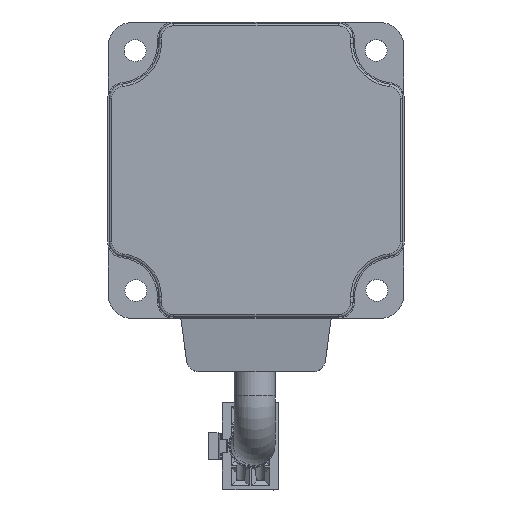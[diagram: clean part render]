
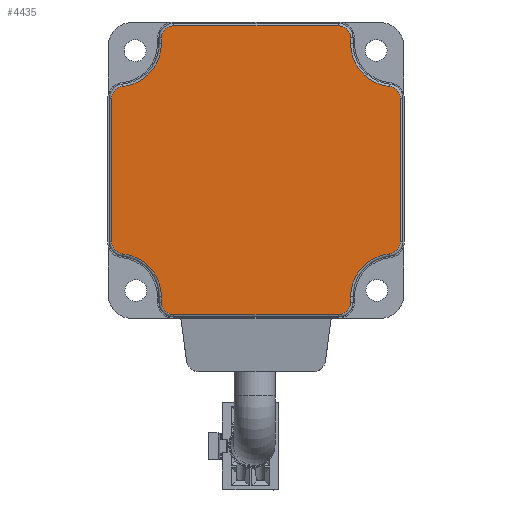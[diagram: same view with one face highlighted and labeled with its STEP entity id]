
A CAD part, top view. The second image highlights one B-rep face of the part: STEP entity #4435.
In plain terms, the highlighted planar face has unit normal (0, 0, 1).
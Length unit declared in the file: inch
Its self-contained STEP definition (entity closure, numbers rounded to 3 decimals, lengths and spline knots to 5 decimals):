
#3576=CARTESIAN_POINT('',(0.66929,1.17126,1.33858));
#3577=VERTEX_POINT('',#3576);
#3585=CARTESIAN_POINT('',(0.76772,1.07283,1.33858));
#3586=VERTEX_POINT('',#3585);
#3587=CARTESIAN_POINT('',(0.66929,1.07283,1.33858));
#3588=DIRECTION('',(0.0,0.0,-1.0));
#3589=DIRECTION('',(0.707,0.707,0.0));
#3590=AXIS2_PLACEMENT_3D('',#3587,#3588,#3589);
#3591=CIRCLE('',#3590,0.09843);
#3592=EDGE_CURVE('',#3577,#3586,#3591,.T.);
#3618=CARTESIAN_POINT('',(0.76772,1.02773,1.33858));
#3619=VERTEX_POINT('',#3618);
#3636=CARTESIAN_POINT('',(0.76772,1.07283,1.33858));
#3637=DIRECTION('',(0.,-1.0,0.0));
#3638=VECTOR('',#3637,0.0451);
#3639=LINE('',#3636,#3638);
#3640=EDGE_CURVE('',#3586,#3619,#3639,.T.);
#3650=CARTESIAN_POINT('',(1.08276,0.67912,1.33858));
#3651=VERTEX_POINT('',#3650);
#3669=CARTESIAN_POINT('',(1.11811,1.02773,1.33858));
#3670=DIRECTION('',(0.0,0.0,1.0));
#3671=DIRECTION('',(-0.742,-0.67,0.0));
#3672=AXIS2_PLACEMENT_3D('',#3669,#3670,#3671);
#3673=CIRCLE('',#3672,0.35039);
#3674=EDGE_CURVE('',#3619,#3651,#3673,.T.);
#3684=CARTESIAN_POINT('',(1.17126,0.5812,1.33858));
#3685=VERTEX_POINT('',#3684);
#3703=CARTESIAN_POINT('',(1.07283,0.5812,1.33858));
#3704=DIRECTION('',(0.0,0.0,-1.0));
#3705=DIRECTION('',(0.742,0.67,0.0));
#3706=AXIS2_PLACEMENT_3D('',#3703,#3704,#3705);
#3707=CIRCLE('',#3706,0.09843);
#3708=EDGE_CURVE('',#3651,#3685,#3707,.T.);
#3718=CARTESIAN_POINT('',(1.17126,-0.5812,1.33858));
#3719=VERTEX_POINT('',#3718);
#3736=CARTESIAN_POINT('',(1.17126,0.5812,1.33858));
#3737=DIRECTION('',(0.0,-1.0,0.0));
#3738=VECTOR('',#3737,1.1624);
#3739=LINE('',#3736,#3738);
#3740=EDGE_CURVE('',#3685,#3719,#3739,.T.);
#3750=CARTESIAN_POINT('',(1.08276,-0.67912,1.33858));
#3751=VERTEX_POINT('',#3750);
#3769=CARTESIAN_POINT('',(1.07283,-0.5812,1.33858));
#3770=DIRECTION('',(0.0,0.0,-1.));
#3771=DIRECTION('',(0.742,-0.67,0.0));
#3772=AXIS2_PLACEMENT_3D('',#3769,#3770,#3771);
#3773=CIRCLE('',#3772,0.09843);
#3774=EDGE_CURVE('',#3719,#3751,#3773,.T.);
#3784=CARTESIAN_POINT('',(0.76772,-1.02773,1.33858));
#3785=VERTEX_POINT('',#3784);
#3803=CARTESIAN_POINT('',(1.11811,-1.02773,1.33858));
#3804=DIRECTION('',(0.0,0.0,1.));
#3805=DIRECTION('',(-0.742,0.67,0.0));
#3806=AXIS2_PLACEMENT_3D('',#3803,#3804,#3805);
#3807=CIRCLE('',#3806,0.35039);
#3808=EDGE_CURVE('',#3751,#3785,#3807,.T.);
#3818=CARTESIAN_POINT('',(0.76772,-1.07283,1.33858));
#3819=VERTEX_POINT('',#3818);
#3836=CARTESIAN_POINT('',(0.76772,-1.02773,1.33858));
#3837=DIRECTION('',(0.,-1.0,0.0));
#3838=VECTOR('',#3837,0.0451);
#3839=LINE('',#3836,#3838);
#3840=EDGE_CURVE('',#3785,#3819,#3839,.T.);
#3850=CARTESIAN_POINT('',(0.66929,-1.17126,1.33858));
#3851=VERTEX_POINT('',#3850);
#3869=CARTESIAN_POINT('',(0.66929,-1.07283,1.33858));
#3870=DIRECTION('',(0.0,0.0,-1.));
#3871=DIRECTION('',(0.707,-0.707,0.0));
#3872=AXIS2_PLACEMENT_3D('',#3869,#3870,#3871);
#3873=CIRCLE('',#3872,0.09843);
#3874=EDGE_CURVE('',#3819,#3851,#3873,.T.);
#3884=CARTESIAN_POINT('',(-0.66929,-1.17126,1.33858));
#3885=VERTEX_POINT('',#3884);
#3902=CARTESIAN_POINT('',(0.66929,-1.17126,1.33858));
#3903=DIRECTION('',(-1.0,0.,0.0));
#3904=VECTOR('',#3903,1.33858);
#3905=LINE('',#3902,#3904);
#3906=EDGE_CURVE('',#3851,#3885,#3905,.T.);
#3916=CARTESIAN_POINT('',(-0.76772,-1.07283,1.33858));
#3917=VERTEX_POINT('',#3916);
#3935=CARTESIAN_POINT('',(-0.66929,-1.07283,1.33858));
#3936=DIRECTION('',(0.0,0.0,-1.));
#3937=DIRECTION('',(-0.707,-0.707,0.0));
#3938=AXIS2_PLACEMENT_3D('',#3935,#3936,#3937);
#3939=CIRCLE('',#3938,0.09843);
#3940=EDGE_CURVE('',#3885,#3917,#3939,.T.);
#3950=CARTESIAN_POINT('',(-0.76772,-1.02773,1.33858));
#3951=VERTEX_POINT('',#3950);
#3968=CARTESIAN_POINT('',(-0.76772,-1.07283,1.33858));
#3969=DIRECTION('',(0.,1.0,0.0));
#3970=VECTOR('',#3969,0.0451);
#3971=LINE('',#3968,#3970);
#3972=EDGE_CURVE('',#3917,#3951,#3971,.T.);
#3982=CARTESIAN_POINT('',(-1.08276,-0.67912,1.33858));
#3983=VERTEX_POINT('',#3982);
#4001=CARTESIAN_POINT('',(-1.11811,-1.02773,1.33858));
#4002=DIRECTION('',(0.0,0.0,1.));
#4003=DIRECTION('',(0.742,0.67,0.0));
#4004=AXIS2_PLACEMENT_3D('',#4001,#4002,#4003);
#4005=CIRCLE('',#4004,0.35039);
#4006=EDGE_CURVE('',#3951,#3983,#4005,.T.);
#4016=CARTESIAN_POINT('',(-1.17126,-0.5812,1.33858));
#4017=VERTEX_POINT('',#4016);
#4035=CARTESIAN_POINT('',(-1.07283,-0.5812,1.33858));
#4036=DIRECTION('',(0.0,0.0,-1.0));
#4037=DIRECTION('',(-0.742,-0.67,0.0));
#4038=AXIS2_PLACEMENT_3D('',#4035,#4036,#4037);
#4039=CIRCLE('',#4038,0.09843);
#4040=EDGE_CURVE('',#3983,#4017,#4039,.T.);
#4050=CARTESIAN_POINT('',(-1.17126,0.5812,1.33858));
#4051=VERTEX_POINT('',#4050);
#4068=CARTESIAN_POINT('',(-1.17126,-0.5812,1.33858));
#4069=DIRECTION('',(0.0,1.0,0.0));
#4070=VECTOR('',#4069,1.1624);
#4071=LINE('',#4068,#4070);
#4072=EDGE_CURVE('',#4017,#4051,#4071,.T.);
#4082=CARTESIAN_POINT('',(-1.08276,0.67912,1.33858));
#4083=VERTEX_POINT('',#4082);
#4101=CARTESIAN_POINT('',(-1.07283,0.5812,1.33858));
#4102=DIRECTION('',(0.0,0.0,-1.));
#4103=DIRECTION('',(-0.742,0.67,0.0));
#4104=AXIS2_PLACEMENT_3D('',#4101,#4102,#4103);
#4105=CIRCLE('',#4104,0.09843);
#4106=EDGE_CURVE('',#4051,#4083,#4105,.T.);
#4116=CARTESIAN_POINT('',(-0.76772,1.02773,1.33858));
#4117=VERTEX_POINT('',#4116);
#4135=CARTESIAN_POINT('',(-1.11811,1.02773,1.33858));
#4136=DIRECTION('',(0.0,0.0,1.0));
#4137=DIRECTION('',(0.742,-0.67,0.0));
#4138=AXIS2_PLACEMENT_3D('',#4135,#4136,#4137);
#4139=CIRCLE('',#4138,0.35039);
#4140=EDGE_CURVE('',#4083,#4117,#4139,.T.);
#4150=CARTESIAN_POINT('',(-0.76772,1.07283,1.33858));
#4151=VERTEX_POINT('',#4150);
#4168=CARTESIAN_POINT('',(-0.76772,1.02773,1.33858));
#4169=DIRECTION('',(0.,1.0,0.0));
#4170=VECTOR('',#4169,0.0451);
#4171=LINE('',#4168,#4170);
#4172=EDGE_CURVE('',#4117,#4151,#4171,.T.);
#4182=CARTESIAN_POINT('',(-0.66929,1.17126,1.33858));
#4183=VERTEX_POINT('',#4182);
#4201=CARTESIAN_POINT('',(-0.66929,1.07283,1.33858));
#4202=DIRECTION('',(0.0,0.0,-1.0));
#4203=DIRECTION('',(-0.707,0.707,0.0));
#4204=AXIS2_PLACEMENT_3D('',#4201,#4202,#4203);
#4205=CIRCLE('',#4204,0.09843);
#4206=EDGE_CURVE('',#4151,#4183,#4205,.T.);
#4224=CARTESIAN_POINT('',(-0.66929,1.17126,1.33858));
#4225=DIRECTION('',(1.0,0.,0.0));
#4226=VECTOR('',#4225,1.33858);
#4227=LINE('',#4224,#4226);
#4228=EDGE_CURVE('',#4183,#3577,#4227,.T.);
#4408=CARTESIAN_POINT('',(0.,0.,1.33858));
#4409=DIRECTION('',(0.0,0.0,1.0));
#4410=DIRECTION('',(1.0,0.0,0.0));
#4411=AXIS2_PLACEMENT_3D('',#4408,#4409,#4410);
#4412=PLANE('',#4411);
#4413=ORIENTED_EDGE('',*,*,#3592,.F.);
#4414=ORIENTED_EDGE('',*,*,#4228,.F.);
#4415=ORIENTED_EDGE('',*,*,#4206,.F.);
#4416=ORIENTED_EDGE('',*,*,#4172,.F.);
#4417=ORIENTED_EDGE('',*,*,#4140,.F.);
#4418=ORIENTED_EDGE('',*,*,#4106,.F.);
#4419=ORIENTED_EDGE('',*,*,#4072,.F.);
#4420=ORIENTED_EDGE('',*,*,#4040,.F.);
#4421=ORIENTED_EDGE('',*,*,#4006,.F.);
#4422=ORIENTED_EDGE('',*,*,#3972,.F.);
#4423=ORIENTED_EDGE('',*,*,#3940,.F.);
#4424=ORIENTED_EDGE('',*,*,#3906,.F.);
#4425=ORIENTED_EDGE('',*,*,#3874,.F.);
#4426=ORIENTED_EDGE('',*,*,#3840,.F.);
#4427=ORIENTED_EDGE('',*,*,#3808,.F.);
#4428=ORIENTED_EDGE('',*,*,#3774,.F.);
#4429=ORIENTED_EDGE('',*,*,#3740,.F.);
#4430=ORIENTED_EDGE('',*,*,#3708,.F.);
#4431=ORIENTED_EDGE('',*,*,#3674,.F.);
#4432=ORIENTED_EDGE('',*,*,#3640,.F.);
#4433=EDGE_LOOP('',(#4413,#4414,#4415,#4416,#4417,#4418,#4419,#4420,#4421,#4422,#4423,#4424,#4425,#4426,#4427,#4428,#4429,#4430,#4431,#4432));
#4434=FACE_OUTER_BOUND('',#4433,.T.);
#4435=ADVANCED_FACE('',(#4434),#4412,.T.);
